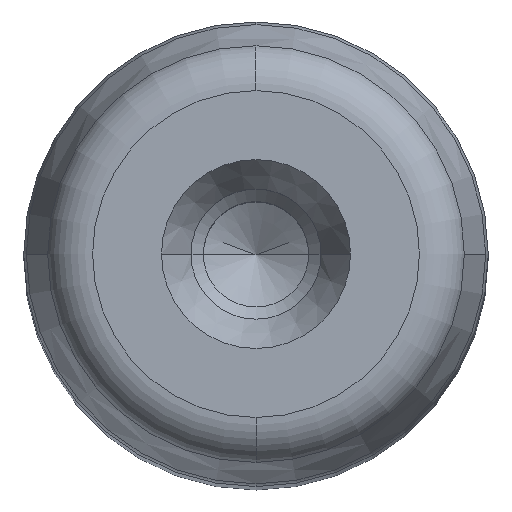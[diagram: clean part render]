
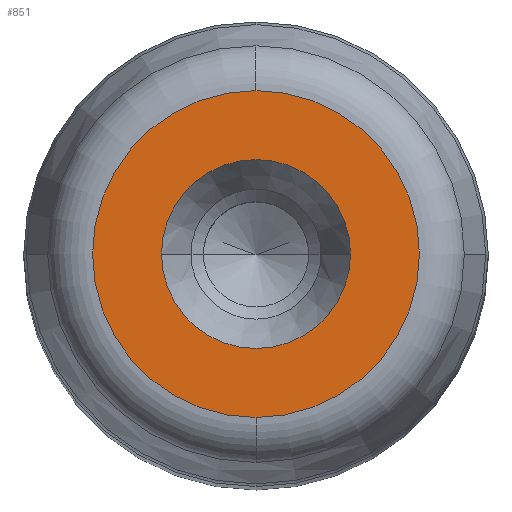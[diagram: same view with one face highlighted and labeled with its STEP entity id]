
A CAD part, top view. The second image highlights one B-rep face of the part: STEP entity #851.
In plain terms, the highlighted planar face has unit normal (0, 0, 1) as drawn and (0, 1, 0) by its records, which use the part's own axes.
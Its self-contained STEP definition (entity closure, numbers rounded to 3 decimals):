
#281=CARTESIAN_POINT('',(6.1,140.0,0.0));
#282=VERTEX_POINT('',#281);
#289=CARTESIAN_POINT('',(-6.1,140.0,0.));
#290=VERTEX_POINT('',#289);
#291=CARTESIAN_POINT('',(0.0,140.0,0.0));
#292=DIRECTION('',(0.0,1.0,0.0));
#293=DIRECTION('',(1.0,0.0,0.0));
#294=AXIS2_PLACEMENT_3D('',#291,#292,#293);
#295=CIRCLE('',#294,6.1);
#296=EDGE_CURVE('',#282,#290,#295,.T.);
#313=CARTESIAN_POINT('',(0.0,140.0,10.554));
#314=VERTEX_POINT('',#313);
#324=CARTESIAN_POINT('',(0.,140.0,-10.554));
#325=VERTEX_POINT('',#324);
#326=CARTESIAN_POINT('',(0.0,140.0,0.0));
#327=DIRECTION('',(0.0,1.0,0.0));
#328=DIRECTION('',(1.0,0.0,0.0));
#329=AXIS2_PLACEMENT_3D('',#326,#327,#328);
#330=CIRCLE('',#329,10.554);
#331=EDGE_CURVE('',#325,#314,#330,.T.);
#812=CARTESIAN_POINT('',(10.554,140.0,0.0));
#813=VERTEX_POINT('',#812);
#814=CARTESIAN_POINT('',(0.0,140.0,0.0));
#815=DIRECTION('',(0.0,1.0,0.0));
#816=DIRECTION('',(1.0,0.0,0.0));
#817=AXIS2_PLACEMENT_3D('',#814,#815,#816);
#818=CIRCLE('',#817,10.554);
#819=EDGE_CURVE('',#813,#325,#818,.T.);
#821=CARTESIAN_POINT('',(0.0,140.0,0.0));
#822=DIRECTION('',(0.0,1.0,0.0));
#823=DIRECTION('',(1.0,0.0,0.0));
#824=AXIS2_PLACEMENT_3D('',#821,#822,#823);
#825=CIRCLE('',#824,10.554);
#826=EDGE_CURVE('',#314,#813,#825,.T.);
#831=CARTESIAN_POINT('',(-11.61,140.0,-11.61));
#832=DIRECTION('',(0.0,1.0,0.0));
#833=DIRECTION('',(0.0,0.0,1.0));
#834=AXIS2_PLACEMENT_3D('',#831,#832,#833);
#835=PLANE('',#834);
#836=ORIENTED_EDGE('',*,*,#819,.T.);
#837=ORIENTED_EDGE('',*,*,#331,.T.);
#838=ORIENTED_EDGE('',*,*,#826,.T.);
#839=EDGE_LOOP('',(#836,#837,#838));
#840=FACE_OUTER_BOUND('',#839,.T.);
#841=ORIENTED_EDGE('',*,*,#296,.F.);
#842=CARTESIAN_POINT('',(0.0,140.0,0.0));
#843=DIRECTION('',(0.0,1.0,0.0));
#844=DIRECTION('',(1.0,0.0,0.0));
#845=AXIS2_PLACEMENT_3D('',#842,#843,#844);
#846=CIRCLE('',#845,6.1);
#847=EDGE_CURVE('',#290,#282,#846,.T.);
#848=ORIENTED_EDGE('',*,*,#847,.F.);
#849=EDGE_LOOP('',(#841,#848));
#850=FACE_BOUND('',#849,.T.);
#851=ADVANCED_FACE('',(#840,#850),#835,.T.);
